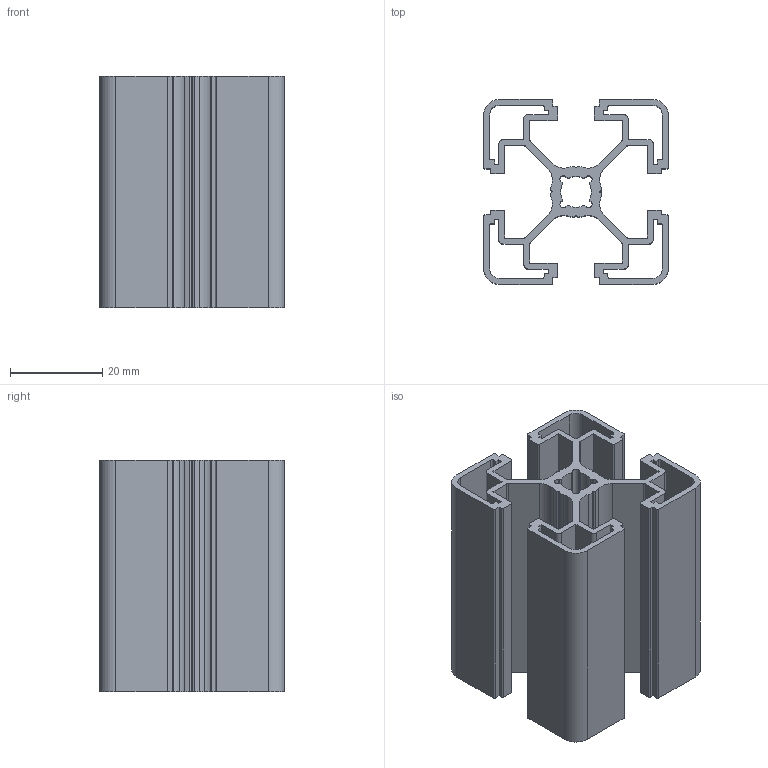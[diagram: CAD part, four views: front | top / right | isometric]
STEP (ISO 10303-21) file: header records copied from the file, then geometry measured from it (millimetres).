
FILE_DESCRIPTION (( 'STEP AP203' ), '1' );
FILE_NAME ('40X40 HAFÝF.STEP', '2018-04-06T08:43:31', ( '' ), ( '' ), 'SwSTEP 2.0', 'SolidWorks 2014', '' );
FILE_SCHEMA (( 'CONFIG_CONTROL_DESIGN' ));
Length unit declared in the file: millimetre
Products named in the file (1): 40X40 HAFÝF
Bounding box: 40 x 40 x 50 mm (x, y, z)
Volume: 20950.2 mm3; surface area: 28916.7 mm2
Topology: 1 solids, 1 shells, 232 faces, 690 edges, 460 vertices
Faces by surface type: plane 122, cylinder 110
Entity records: 7931 total; most frequent: CARTESIAN_POINT 1383, ORIENTED_EDGE 1380, DIRECTION 1376, EDGE_CURVE 690, VECTOR 470, LINE 470, VERTEX_POINT 460, AXIS2_PLACEMENT_3D 453
